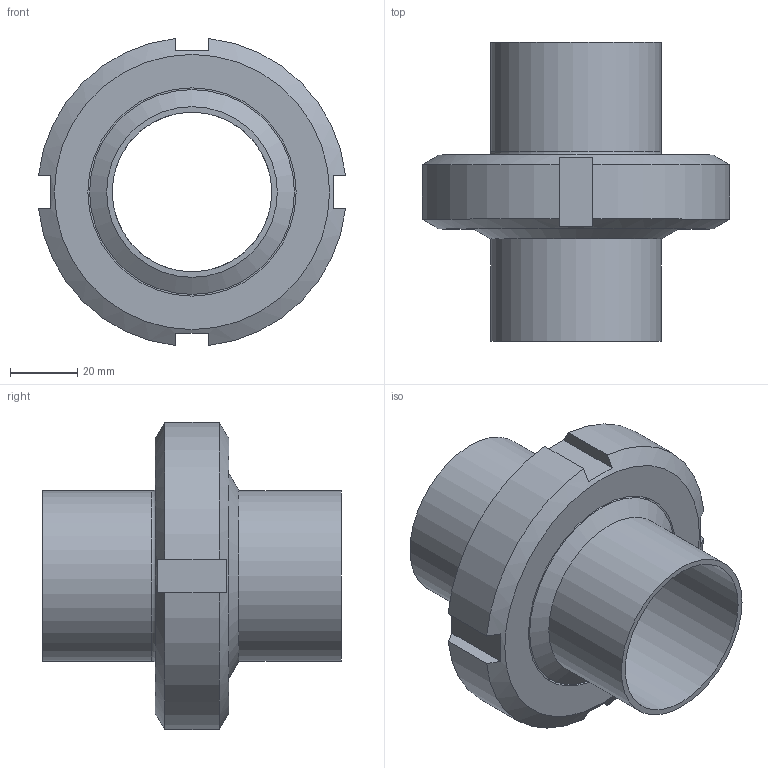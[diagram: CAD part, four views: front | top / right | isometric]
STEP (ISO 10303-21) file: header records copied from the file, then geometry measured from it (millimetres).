
FILE_DESCRIPTION(/* description */ ('Aseptik_Rohrverbindung_DIN 11864-1-A_50,8x1,65_L89'),/* implementation_level */ '2;1');
FILE_NAME(/* name */ 'L:\Normteile\N0024 - Rohrverbindungen\N0024_002 - DIN11864\N0024_002_001 - geschraubt\N0024_002_001\Step Marketing\DIN11864-1-A_50,8x1,65_L89.stp',/* time_stamp */ '2021-08-31T10:29:33+02:00',/* author */ ('Csasse'),/* organization */ ('Dockweiler AG'),/* preprocessor_version */ 'ST-DEVELOPER v18',/* originating_system */ 'Autodesk Inventor 2020',/* authorisation */ '');
FILE_SCHEMA (('AUTOMOTIVE_DESIGN { 1 0 10303 214 3 1 1 }'));
Length unit declared in the file: millimetre
Products named in the file (5): N0024_002_001_53; N0003_007_001_25; N0003_007_002_25; N0005_005_002_001_26; N0009_009_17
Assembly tree (4 placements, depth 2):
  N0024_002_001_53
    N0003_007_001_25
    N0003_007_002_25
    N0005_005_002_001_26
    N0009_009_17
Bounding box: 91.45 x 89 x 91.45 mm (x, y, z)
Volume: 119243.7 mm3; surface area: 60832.8 mm2
Topology: 4 solids, 4 shells, 60 faces, 176 edges, 128 vertices
Faces by surface type: plane 24, cylinder 14, torus 12, cone 10
Full cylindrical faces by diameter (mm): 47.5 x2, 50.8 x2, 61 x1, 62 x1, 66.9 x1, 67 x1, 73.767 x1, 78.423 x1
Entity records: 2344 total; most frequent: CARTESIAN_POINT 425, DIRECTION 402, ORIENTED_EDGE 352, AXIS2_PLACEMENT_3D 183, EDGE_CURVE 176, VERTEX_POINT 128, CIRCLE 114, EDGE_LOOP 72
